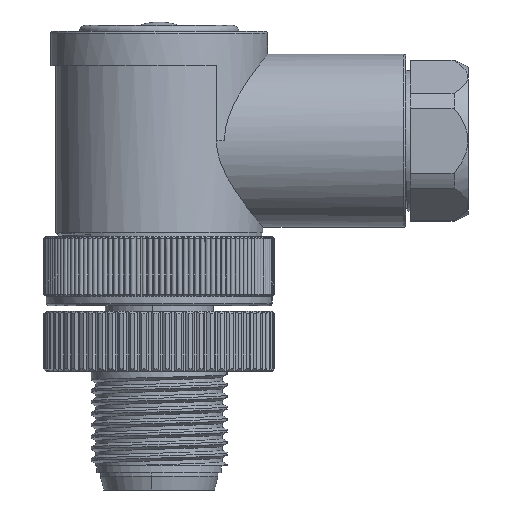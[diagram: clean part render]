
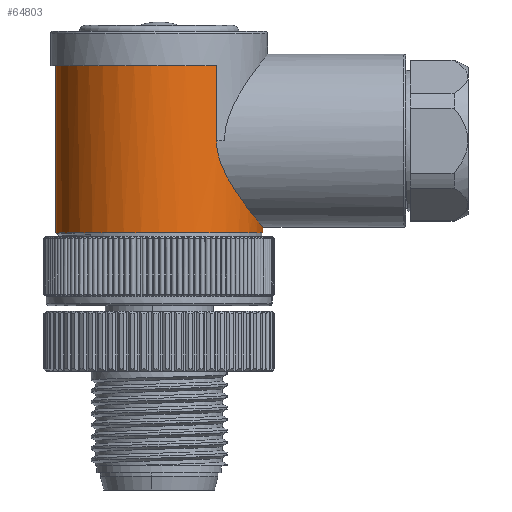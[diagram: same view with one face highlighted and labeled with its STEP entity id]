
A CAD part, front view. The second image highlights one B-rep face of the part: STEP entity #64803.
In plain terms, the highlighted cylindrical face has radius 9 mm (diameter 18 mm), a partial arc.
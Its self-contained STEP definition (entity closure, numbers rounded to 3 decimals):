
#20793=CARTESIAN_POINT('',(0.,0.,4.5));
#20794=DIRECTION('',(0.,0.,-1.));
#20795=DIRECTION('',(1.,0.,0.));
#20796=AXIS2_PLACEMENT_3D('',#20793,#20794,#20795);
#20812=DIRECTION('',(0.,0.,-1.));
#20813=VECTOR('',#20812,0.5);
#20814=CARTESIAN_POINT('',(9.,0.,5.));
#20815=LINE('',#20814,#20813);
#20816=DIRECTION('',(0.,0.,-1.));
#20817=VECTOR('',#20816,14.5);
#20818=CARTESIAN_POINT('',(-9.,0.,19.));
#20819=LINE('',#20818,#20817);
#20820=DIRECTION('',(0.,0.,1.));
#20821=VECTOR('',#20820,6.475);
#20822=CARTESIAN_POINT('',(4.975,-7.5,
12.525));
#20823=LINE('',#20822,#20821);
#20915=CARTESIAN_POINT('',(9.,0.,5.));
#20916=CARTESIAN_POINT('',(9.,-0.048,
5.));
#20917=CARTESIAN_POINT('',(8.999,-0.144,
5.001));
#20918=CARTESIAN_POINT('',(8.996,-0.289,
5.005));
#20919=CARTESIAN_POINT('',(8.99,-0.433,
5.012));
#20920=CARTESIAN_POINT('',(8.982,-0.578,
5.022));
#20921=CARTESIAN_POINT('',(8.971,-0.722,
5.034));
#20922=CARTESIAN_POINT('',(8.959,-0.866,
5.05));
#20923=CARTESIAN_POINT('',(8.943,-1.011,
5.068));
#20924=CARTESIAN_POINT('',(8.926,-1.155,
5.089));
#20925=CARTESIAN_POINT('',(8.906,-1.3,
5.113));
#20926=CARTESIAN_POINT('',(8.884,-1.445,
5.14));
#20927=CARTESIAN_POINT('',(8.859,-1.589,
5.17));
#20928=CARTESIAN_POINT('',(8.832,-1.734,
5.203));
#20929=CARTESIAN_POINT('',(8.802,-1.879,
5.239));
#20930=CARTESIAN_POINT('',(8.77,-2.024,
5.278));
#20931=CARTESIAN_POINT('',(8.735,-2.168,
5.32));
#20932=CARTESIAN_POINT('',(8.698,-2.313,
5.365));
#20933=CARTESIAN_POINT('',(8.658,-2.458,
5.414));
#20934=CARTESIAN_POINT('',(8.616,-2.603,
5.466));
#20935=CARTESIAN_POINT('',(8.571,-2.747,
5.521));
#20936=CARTESIAN_POINT('',(8.523,-2.892,
5.579));
#20937=CARTESIAN_POINT('',(8.473,-3.036,
5.641));
#20938=CARTESIAN_POINT('',(8.42,-3.181,
5.707));
#20939=CARTESIAN_POINT('',(8.364,-3.324,
5.776));
#20940=CARTESIAN_POINT('',(8.305,-3.468,
5.849));
#20941=CARTESIAN_POINT('',(8.244,-3.611,
5.926));
#20942=CARTESIAN_POINT('',(8.18,-3.754,
6.007));
#20943=CARTESIAN_POINT('',(8.113,-3.897,
6.091));
#20944=CARTESIAN_POINT('',(8.044,-4.038,
6.179));
#20945=CARTESIAN_POINT('',(7.971,-4.18,
6.272));
#20946=CARTESIAN_POINT('',(7.896,-4.32,
6.368));
#20947=CARTESIAN_POINT('',(7.818,-4.459,
6.469));
#20948=CARTESIAN_POINT('',(7.738,-4.598,
6.574));
#20949=CARTESIAN_POINT('',(7.654,-4.735,
6.683));
#20950=CARTESIAN_POINT('',(7.569,-4.871,
6.796));
#20951=CARTESIAN_POINT('',(7.481,-5.005,
6.913));
#20952=CARTESIAN_POINT('',(7.39,-5.138,
7.035));
#20953=CARTESIAN_POINT('',(7.298,-5.268,
7.161));
#20954=CARTESIAN_POINT('',(7.203,-5.397,
7.291));
#20955=CARTESIAN_POINT('',(7.106,-5.523,
7.425));
#20956=CARTESIAN_POINT('',(7.009,-5.647,
7.563));
#20957=CARTESIAN_POINT('',(6.909,-5.768,
7.705));
#20958=CARTESIAN_POINT('',(6.809,-5.885,
7.85));
#20959=CARTESIAN_POINT('',(6.709,-6.,
7.998));
#20960=CARTESIAN_POINT('',(6.608,-6.11,
8.15));
#20961=CARTESIAN_POINT('',(6.508,-6.217,
8.303));
#20962=CARTESIAN_POINT('',(6.409,-6.319,
8.459));
#20963=CARTESIAN_POINT('',(6.311,-6.417,
8.616));
#20964=CARTESIAN_POINT('',(6.215,-6.51,
8.775));
#20965=CARTESIAN_POINT('',(6.121,-6.598,
8.933));
#20966=CARTESIAN_POINT('',(6.03,-6.681,
9.091));
#20967=CARTESIAN_POINT('',(5.942,-6.76,
9.249));
#20968=CARTESIAN_POINT('',(5.858,-6.832,
9.405));
#20969=CARTESIAN_POINT('',(5.778,-6.9,
9.56));
#20970=CARTESIAN_POINT('',(5.702,-6.963,
9.713));
#20971=CARTESIAN_POINT('',(5.63,-7.022,
9.863));
#20972=CARTESIAN_POINT('',(5.562,-7.075,
10.011));
#20973=CARTESIAN_POINT('',(5.499,-7.125,
10.156));
#20974=CARTESIAN_POINT('',(5.44,-7.17,
10.298));
#20975=CARTESIAN_POINT('',(5.385,-7.211,
10.437));
#20976=CARTESIAN_POINT('',(5.334,-7.249,
10.574));
#20977=CARTESIAN_POINT('',(5.287,-7.283,
10.708));
#20978=CARTESIAN_POINT('',(5.244,-7.314,
10.84));
#20979=CARTESIAN_POINT('',(5.205,-7.342,
10.969));
#20980=CARTESIAN_POINT('',(5.169,-7.368,
11.095));
#20981=CARTESIAN_POINT('',(5.137,-7.39,
11.22));
#20982=CARTESIAN_POINT('',(5.107,-7.41,
11.343));
#20983=CARTESIAN_POINT('',(5.081,-7.428,
11.463));
#20984=CARTESIAN_POINT('',(5.058,-7.444,
11.583));
#20985=CARTESIAN_POINT('',(5.038,-7.458,
11.7));
#20986=CARTESIAN_POINT('',(5.021,-7.469,
11.817));
#20987=CARTESIAN_POINT('',(5.007,-7.479,
11.932));
#20988=CARTESIAN_POINT('',(4.995,-7.487,
12.047));
#20989=CARTESIAN_POINT('',(4.986,-7.493,
12.161));
#20990=CARTESIAN_POINT('',(4.98,-7.497,
12.274));
#20991=CARTESIAN_POINT('',(4.976,-7.499,
12.387));
#20992=CARTESIAN_POINT('',(4.975,-7.5,
12.462));
#20993=CARTESIAN_POINT('',(4.975,-7.5,
12.5));
#21004=CARTESIAN_POINT('',(4.975,-7.5,
12.5));
#21005=CARTESIAN_POINT('',(4.975,-7.5,
12.504));
#21006=CARTESIAN_POINT('',(4.975,-7.5,
12.512));
#21007=CARTESIAN_POINT('',(4.975,-7.5,
12.521));
#21008=CARTESIAN_POINT('',(4.975,-7.5,
12.525));
#21033=CARTESIAN_POINT('',(0.,0.,19.));
#21034=DIRECTION('',(0.,0.,1.));
#21035=DIRECTION('',(-1.,0.,0.));
#21036=AXIS2_PLACEMENT_3D('',#21033,#21034,#21035);
#47653=CARTESIAN_POINT('',(4.975,-7.5,19.));
#47655=VERTEX_POINT('',#47653);
#47666=CARTESIAN_POINT('',(4.975,-7.5,
12.5));
#47668=VERTEX_POINT('',#47666);
#47931=CARTESIAN_POINT('',(9.,0.,5.));
#47933=VERTEX_POINT('',#47931);
#47938=CARTESIAN_POINT('',(-9.,0.,19.));
#47939=CARTESIAN_POINT('',(-9.,0.,4.5));
#47940=VERTEX_POINT('',#47938);
#47941=VERTEX_POINT('',#47939);
#47942=CARTESIAN_POINT('',(9.,0.,4.5));
#47943=VERTEX_POINT('',#47942);
#47946=CARTESIAN_POINT('',(4.975,-7.5,
12.525));
#47947=VERTEX_POINT('',#47946);
#64783=CARTESIAN_POINT('',(0.,0.,22.));
#64784=DIRECTION('',(0.,0.,-1.));
#64785=DIRECTION('',(-1.,0.,0.));
#64786=AXIS2_PLACEMENT_3D('',#64783,#64784,#64785);
#64787=CYLINDRICAL_SURFACE('',#64786,9.);
#64789=ORIENTED_EDGE('',*,*,#64788,.F.);
#64791=ORIENTED_EDGE('',*,*,#64790,.T.);
#64792=ORIENTED_EDGE('',*,*,#64768,.T.);
#64794=ORIENTED_EDGE('',*,*,#64793,.F.);
#64796=ORIENTED_EDGE('',*,*,#64795,.T.);
#64798=ORIENTED_EDGE('',*,*,#64797,.F.);
#64800=ORIENTED_EDGE('',*,*,#64799,.F.);
#64801=EDGE_LOOP('',(#64789,#64791,#64792,#64794,#64796,#64798,#64800));
#64802=FACE_OUTER_BOUND('',#64801,.F.);
#64803=ADVANCED_FACE('',(#64802),#64787,.T.);
#20797=CIRCLE('',#20796,9.);
#20994=B_SPLINE_CURVE_WITH_KNOTS('',3,(#20915,#20916,#20917,#20918,#20919,
#20920,#20921,#20922,#20923,#20924,#20925,#20926,#20927,#20928,#20929,#20930,
#20931,#20932,#20933,#20934,#20935,#20936,#20937,#20938,#20939,#20940,#20941,
#20942,#20943,#20944,#20945,#20946,#20947,#20948,#20949,#20950,#20951,#20952,
#20953,#20954,#20955,#20956,#20957,#20958,#20959,#20960,#20961,#20962,#20963,
#20964,#20965,#20966,#20967,#20968,#20969,#20970,#20971,#20972,#20973,#20974,
#20975,#20976,#20977,#20978,#20979,#20980,#20981,#20982,#20983,#20984,#20985,
#20986,#20987,#20988,#20989,#20990,#20991,#20992,#20993),.UNSPECIFIED.,.F.,.F.,(
4,1,1,1,1,1,1,1,1,1,1,1,1,1,1,1,1,1,1,1,1,1,1,1,1,1,1,1,1,1,1,1,1,1,1,1,1,1,1,1,
1,1,1,1,1,1,1,1,1,1,1,1,1,1,1,1,1,1,1,1,1,1,1,1,1,1,1,1,1,1,1,1,1,1,1,1,4),
(0.,0.013,0.026,0.039,0.053,
0.066,0.079,0.092,0.105,
0.118,0.132,0.145,0.158,
0.171,0.184,0.197,0.211,
0.224,0.237,0.25,0.263,0.276,
0.289,0.303,0.316,0.329,
0.342,0.355,0.368,0.382,
0.395,0.408,0.421,0.434,
0.447,0.461,0.474,0.487,0.5,
0.513,0.526,0.539,0.553,
0.566,0.579,0.592,0.605,
0.618,0.632,0.645,0.658,
0.671,0.684,0.697,0.711,
0.724,0.737,0.75,0.763,0.776,
0.789,0.803,0.816,0.829,
0.842,0.855,0.868,0.882,
0.895,0.908,0.921,0.934,
0.947,0.961,0.974,0.987,1.),
.UNSPECIFIED.);
#21009=B_SPLINE_CURVE_WITH_KNOTS('',3,(#21004,#21005,#21006,#21007,#21008),
.UNSPECIFIED.,.F.,.F.,(4,1,4),(0.,0.5,1.),.UNSPECIFIED.);
#21037=CIRCLE('',#21036,9.);
#64768=EDGE_CURVE('',#47943,#47941,#20797,.T.);
#64788=EDGE_CURVE('',#47933,#47668,#20994,.T.);
#64790=EDGE_CURVE('',#47933,#47943,#20815,.T.);
#64793=EDGE_CURVE('',#47940,#47941,#20819,.T.);
#64795=EDGE_CURVE('',#47940,#47655,#21037,.T.);
#64797=EDGE_CURVE('',#47947,#47655,#20823,.T.);
#64799=EDGE_CURVE('',#47668,#47947,#21009,.T.);
